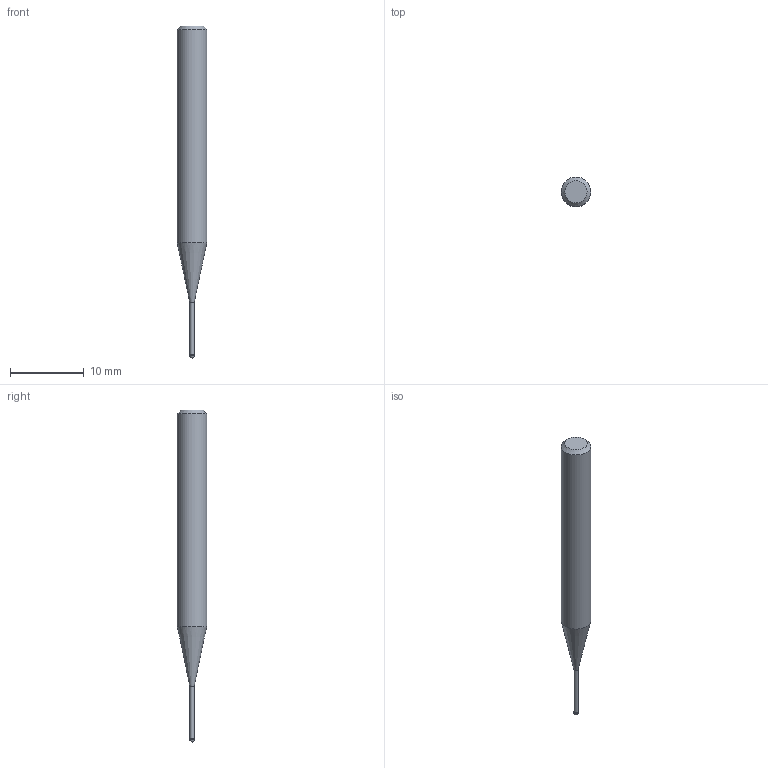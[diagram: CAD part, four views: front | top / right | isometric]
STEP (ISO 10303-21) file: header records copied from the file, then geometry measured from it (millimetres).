
FILE_DESCRIPTION((''),'2;1');
FILE_NAME('C:\Users\nsx150\AppData\Local\Temp\Mastercam 2021\3SYKECWX22\TEMP.step','2021-04-22T10:01:05',(''),(''),'STEP Write','Mastercam 2021 ... CNC Software, Inc.','');
FILE_SCHEMA(('AUTOMOTIVE_DESIGN'));
Length unit declared in the file: millimetre
Products named in the file (1): None
Bounding box: 4 x 4 x 45 mm (x, y, z)
Volume: 409.3 mm3; surface area: 451.1 mm2
Topology: 2 solids, 2 shells, 9 faces, 14 edges, 8 vertices
Faces by surface type: plane 3, cylinder 3, cone 2, sphere 1
Full cylindrical faces by diameter (mm): 0.56 x1, 0.6 x1, 4 x1
Entity records: 211 total; most frequent: DIRECTION 36, CARTESIAN_POINT 25, AXIS2_PLACEMENT_3D 18, ORIENTED_EDGE 14, EDGE_LOOP 14, STYLED_ITEM 12, ADVANCED_FACE 9, FACE_BOUND 8
